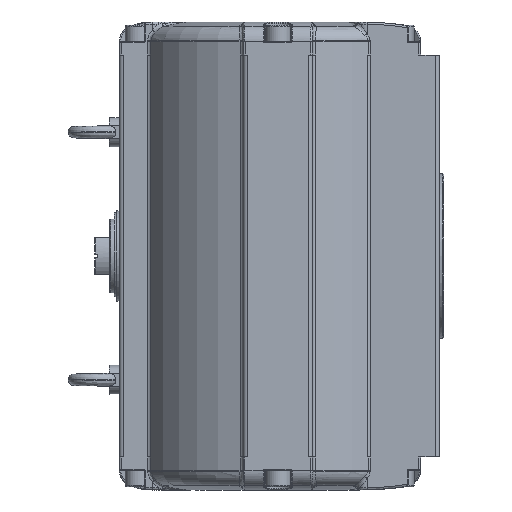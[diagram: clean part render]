
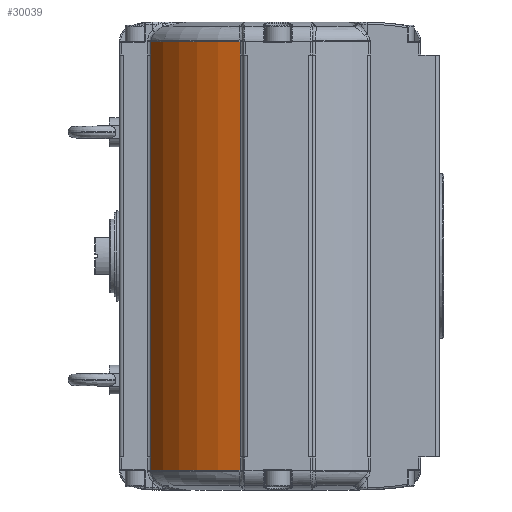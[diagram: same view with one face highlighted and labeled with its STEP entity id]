
A CAD part, left-side view. The second image highlights one B-rep face of the part: STEP entity #30039.
In plain terms, the highlighted cylindrical face has radius 172.5 mm (diameter 345 mm), a partial arc.
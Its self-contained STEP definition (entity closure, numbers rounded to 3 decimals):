
#1185=B_SPLINE_CURVE_WITH_KNOTS('',3,(#53193,#53194,#53195,#53196),
 .UNSPECIFIED.,.F.,.F.,(4,4),(0.19,0.191),
 .UNSPECIFIED.);
#1308=B_SPLINE_CURVE_WITH_KNOTS('',3,(#59089,#59090,#59091,#59092),
 .UNSPECIFIED.,.F.,.F.,(4,4),(0.,0.001),.UNSPECIFIED.);
#1512=B_SPLINE_CURVE_WITH_KNOTS('',3,(#64395,#64396,#64397,#64398),
 .UNSPECIFIED.,.F.,.F.,(4,4),(0.,0.001),.UNSPECIFIED.);
#1721=B_SPLINE_CURVE_WITH_KNOTS('',3,(#73524,#73525,#73526,#73527),
 .UNSPECIFIED.,.F.,.F.,(4,4),(0.186,0.188),
 .UNSPECIFIED.);
#2836=LINE('',#53199,#4054);
#2945=LINE('',#59062,#4163);
#3078=LINE('',#64362,#4296);
#3196=LINE('',#73307,#4414);
#3427=LINE('',#76160,#4645);
#3428=LINE('',#76163,#4646);
#4054=VECTOR('',#36638,10.);
#4163=VECTOR('',#37497,10.);
#4296=VECTOR('',#38428,10.);
#4414=VECTOR('',#39368,10.);
#4645=VECTOR('',#40379,10.);
#4646=VECTOR('',#40384,10.);
#5286=CYLINDRICAL_SURFACE('',#33142,172.5);
#6940=FACE_OUTER_BOUND('',#8752,.T.);
#8752=EDGE_LOOP('',(#25656,#25657,#25658,#25659,#25660,#25661,#25662,#25663,
#25664,#25665,#25666,#25667,#25668,#25669,#25670,#25671));
#9460=CIRCLE('',#31241,172.5);
#9734=CIRCLE('',#31701,172.5);
#9895=CIRCLE('',#31984,172.5);
#9923=CIRCLE('',#32018,172.5);
#10144=CIRCLE('',#32352,172.5);
#10397=CIRCLE('',#32807,172.5);
#11526=VERTEX_POINT('',#45970);
#11527=VERTEX_POINT('',#45971);
#11849=VERTEX_POINT('',#53130);
#11851=VERTEX_POINT('',#53140);
#11928=VERTEX_POINT('',#56314);
#12098=VERTEX_POINT('',#59011);
#12100=VERTEX_POINT('',#59015);
#12138=VERTEX_POINT('',#59954);
#12182=VERTEX_POINT('',#60101);
#12183=VERTEX_POINT('',#60102);
#12486=VERTEX_POINT('',#64309);
#12489=VERTEX_POINT('',#64390);
#12512=VERTEX_POINT('',#64904);
#12812=VERTEX_POINT('',#73304);
#12813=VERTEX_POINT('',#73306);
#12860=VERTEX_POINT('',#74310);
#14661=EDGE_CURVE('',#11526,#11527,#9460,.T.);
#15199=EDGE_CURVE('',#11851,#11849,#1185,.T.);
#15201=EDGE_CURVE('',#11526,#11851,#2836,.T.);
#15365=EDGE_CURVE('',#11928,#11849,#9734,.T.);
#15662=EDGE_CURVE('',#12100,#12098,#2945,.T.);
#15665=EDGE_CURVE('',#11928,#12100,#1308,.T.);
#15739=EDGE_CURVE('',#12098,#12138,#9895,.T.);
#15788=EDGE_CURVE('',#12182,#12183,#9923,.T.);
#16266=EDGE_CURVE('',#12486,#12183,#3078,.T.);
#16270=EDGE_CURVE('',#12489,#12486,#1512,.T.);
#16306=EDGE_CURVE('',#12489,#12512,#10144,.T.);
#16845=EDGE_CURVE('',#12812,#12813,#3196,.T.);
#16858=EDGE_CURVE('',#12813,#12512,#1721,.T.);
#16937=EDGE_CURVE('',#12860,#12812,#10397,.T.);
#17370=EDGE_CURVE('',#12182,#11527,#3427,.T.);
#17371=EDGE_CURVE('',#12138,#12860,#3428,.T.);
#25656=ORIENTED_EDGE('',*,*,#17370,.F.);
#25657=ORIENTED_EDGE('',*,*,#15788,.T.);
#25658=ORIENTED_EDGE('',*,*,#16266,.F.);
#25659=ORIENTED_EDGE('',*,*,#16270,.F.);
#25660=ORIENTED_EDGE('',*,*,#16306,.T.);
#25661=ORIENTED_EDGE('',*,*,#16858,.F.);
#25662=ORIENTED_EDGE('',*,*,#16845,.F.);
#25663=ORIENTED_EDGE('',*,*,#16937,.F.);
#25664=ORIENTED_EDGE('',*,*,#17371,.F.);
#25665=ORIENTED_EDGE('',*,*,#15739,.F.);
#25666=ORIENTED_EDGE('',*,*,#15662,.F.);
#25667=ORIENTED_EDGE('',*,*,#15665,.F.);
#25668=ORIENTED_EDGE('',*,*,#15365,.T.);
#25669=ORIENTED_EDGE('',*,*,#15199,.F.);
#25670=ORIENTED_EDGE('',*,*,#15201,.F.);
#25671=ORIENTED_EDGE('',*,*,#14661,.T.);
#30039=ADVANCED_FACE('',(#6940),#5286,.T.);
#31241=AXIS2_PLACEMENT_3D('',#45972,#35893,#35894);
#31701=AXIS2_PLACEMENT_3D('',#56315,#36949,#36950);
#31984=AXIS2_PLACEMENT_3D('',#59955,#37600,#37601);
#32018=AXIS2_PLACEMENT_3D('',#60103,#37681,#37682);
#32352=AXIS2_PLACEMENT_3D('',#64909,#38457,#38458);
#32807=AXIS2_PLACEMENT_3D('',#74312,#39501,#39502);
#33142=AXIS2_PLACEMENT_3D('',#76164,#40385,#40386);
#35893=DIRECTION('center_axis',(0.,0.,1.));
#35894=DIRECTION('ref_axis',(-0.435,0.901,0.));
#36638=DIRECTION('',(0.,0.,-1.));
#36949=DIRECTION('center_axis',(0.,0.,
1.));
#36950=DIRECTION('ref_axis',(0.,1.,0.));
#37497=DIRECTION('',(0.,0.,1.));
#37600=DIRECTION('center_axis',(0.,0.,1.));
#37601=DIRECTION('ref_axis',(0.,1.,0.));
#37681=DIRECTION('center_axis',(0.,0.,-1.));
#37682=DIRECTION('ref_axis',(-0.435,0.901,0.));
#38428=DIRECTION('',(0.,0.,-1.));
#38457=DIRECTION('center_axis',(0.,0.,
-1.));
#38458=DIRECTION('ref_axis',(0.,1.,0.));
#39368=DIRECTION('',(0.,0.,1.));
#39501=DIRECTION('center_axis',(0.,0.,-1.));
#39502=DIRECTION('ref_axis',(0.,1.,0.));
#40379=DIRECTION('',(0.,0.,-1.));
#40384=DIRECTION('',(0.,0.,1.));
#40385=DIRECTION('center_axis',(0.,0.,1.));
#40386=DIRECTION('ref_axis',(-0.435,0.901,0.));
#45970=CARTESIAN_POINT('',(-166.289,50.87,-243.5));
#45971=CARTESIAN_POINT('',(-166.343,50.676,-243.5));
#45972=CARTESIAN_POINT('Origin',(0.,5.,-243.5));
#53130=CARTESIAN_POINT('',(-166.287,50.878,-259.5));
#53140=CARTESIAN_POINT('',(-166.289,50.87,-259.5));
#53193=CARTESIAN_POINT('Ctrl Pts',(-166.289,50.87,-259.5));
#53194=CARTESIAN_POINT('Ctrl Pts',(-166.289,50.873,-259.5));
#53195=CARTESIAN_POINT('Ctrl Pts',(-166.288,50.875,-259.5));
#53196=CARTESIAN_POINT('Ctrl Pts',(-166.287,50.878,-259.5));
#53199=CARTESIAN_POINT('',(-166.289,50.87,-251.5));
#56314=CARTESIAN_POINT('',(-77.489,159.116,-259.5));
#56315=CARTESIAN_POINT('Origin',(0.,5.,
-259.5));
#59011=CARTESIAN_POINT('',(-77.478,159.122,-243.5));
#59015=CARTESIAN_POINT('',(-77.478,159.122,-259.5));
#59062=CARTESIAN_POINT('',(-77.478,159.122,-251.5));
#59089=CARTESIAN_POINT('Ctrl Pts',(-77.489,159.116,-259.5));
#59090=CARTESIAN_POINT('Ctrl Pts',(-77.485,159.118,-259.5));
#59091=CARTESIAN_POINT('Ctrl Pts',(-77.481,159.12,-259.5));
#59092=CARTESIAN_POINT('Ctrl Pts',(-77.478,159.122,-259.5));
#59954=CARTESIAN_POINT('',(-77.746,158.986,-243.5));
#59955=CARTESIAN_POINT('Origin',(0.,5.,
-243.5));
#60101=CARTESIAN_POINT('',(-166.343,50.676,243.5));
#60102=CARTESIAN_POINT('',(-166.289,50.87,243.5));
#60103=CARTESIAN_POINT('Origin',(0.,5.,243.5));
#64309=CARTESIAN_POINT('',(-166.289,50.87,259.5));
#64362=CARTESIAN_POINT('',(-166.289,50.87,251.5));
#64390=CARTESIAN_POINT('',(-166.287,50.878,259.5));
#64395=CARTESIAN_POINT('Ctrl Pts',(-166.287,50.878,259.5));
#64396=CARTESIAN_POINT('Ctrl Pts',(-166.288,50.875,259.5));
#64397=CARTESIAN_POINT('Ctrl Pts',(-166.289,50.873,259.5));
#64398=CARTESIAN_POINT('Ctrl Pts',(-166.289,50.87,259.5));
#64904=CARTESIAN_POINT('',(-77.489,159.116,259.5));
#64909=CARTESIAN_POINT('Origin',(0.,5.,
259.5));
#73304=CARTESIAN_POINT('',(-77.478,159.122,243.5));
#73306=CARTESIAN_POINT('',(-77.478,159.122,259.5));
#73307=CARTESIAN_POINT('',(-77.478,159.122,251.5));
#73524=CARTESIAN_POINT('Ctrl Pts',(-77.478,159.122,259.5));
#73525=CARTESIAN_POINT('Ctrl Pts',(-77.481,159.12,259.5));
#73526=CARTESIAN_POINT('Ctrl Pts',(-77.485,159.118,259.5));
#73527=CARTESIAN_POINT('Ctrl Pts',(-77.489,159.116,259.5));
#74310=CARTESIAN_POINT('',(-77.746,158.986,243.5));
#74312=CARTESIAN_POINT('Origin',(0.,5.,
243.5));
#76160=CARTESIAN_POINT('',(-166.343,50.676,0.));
#76163=CARTESIAN_POINT('',(-77.746,158.986,0.));
#76164=CARTESIAN_POINT('Origin',(0.,5.,0.));
